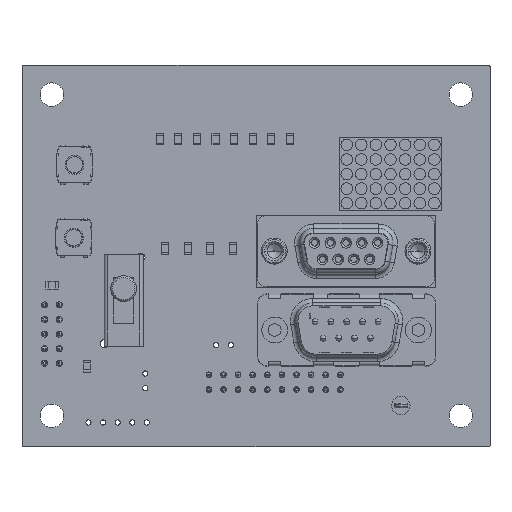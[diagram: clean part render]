
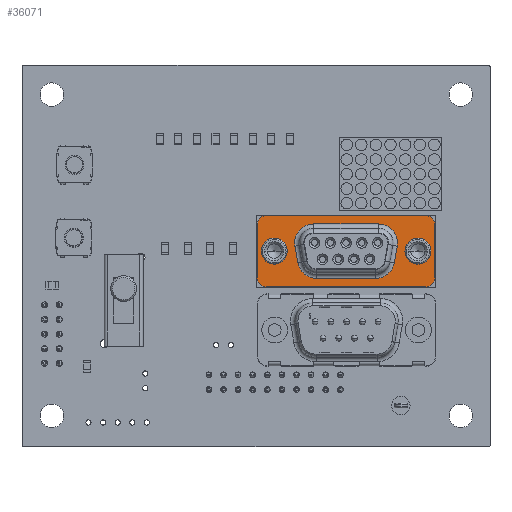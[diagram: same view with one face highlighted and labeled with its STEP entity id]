
A CAD part, top view. The second image highlights one B-rep face of the part: STEP entity #36071.
In plain terms, the highlighted planar face has unit normal (0, 0, 1) as drawn and (0, -1, 0) by its records, which use the part's own axes.
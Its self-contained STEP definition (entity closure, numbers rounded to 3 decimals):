
#36071 = ADVANCED_FACE('',(#36072,#36142,#36212,#36232),#36252,.T.);
#36072 = FACE_BOUND('',#36073,.F.);
#36073 = EDGE_LOOP('',(#36074,#36084,#36093,#36101,#36110,#36118,#36127,
    #36135));
#36074 = ORIENTED_EDGE('',*,*,#36075,.T.);
#36075 = EDGE_CURVE('',#36076,#36078,#36080,.T.);
#36076 = VERTEX_POINT('',#36077);
#36077 = CARTESIAN_POINT('',(-15.45,0.,-4.61));
#36078 = VERTEX_POINT('',#36079);
#36079 = CARTESIAN_POINT('',(-15.45,0.,4.61));
#36080 = LINE('',#36081,#36082);
#36081 = CARTESIAN_POINT('',(-15.45,0.,-4.61));
#36082 = VECTOR('',#36083,1.);
#36083 = DIRECTION('',(0.,0.,1.));
#36084 = ORIENTED_EDGE('',*,*,#36085,.F.);
#36085 = EDGE_CURVE('',#36086,#36078,#36088,.T.);
#36086 = VERTEX_POINT('',#36087);
#36087 = CARTESIAN_POINT('',(-13.85,0.,6.21));
#36088 = CIRCLE('',#36089,1.6);
#36089 = AXIS2_PLACEMENT_3D('',#36090,#36091,#36092);
#36090 = CARTESIAN_POINT('',(-13.85,0.,4.61));
#36091 = DIRECTION('',(0.,-1.,0.));
#36092 = DIRECTION('',(0.,0.,1.));
#36093 = ORIENTED_EDGE('',*,*,#36094,.T.);
#36094 = EDGE_CURVE('',#36086,#36095,#36097,.T.);
#36095 = VERTEX_POINT('',#36096);
#36096 = CARTESIAN_POINT('',(13.85,0.,6.21));
#36097 = LINE('',#36098,#36099);
#36098 = CARTESIAN_POINT('',(-13.85,0.,6.21));
#36099 = VECTOR('',#36100,1.);
#36100 = DIRECTION('',(1.,0.,0.));
#36101 = ORIENTED_EDGE('',*,*,#36102,.F.);
#36102 = EDGE_CURVE('',#36103,#36095,#36105,.T.);
#36103 = VERTEX_POINT('',#36104);
#36104 = CARTESIAN_POINT('',(15.45,0.,4.61));
#36105 = CIRCLE('',#36106,1.6);
#36106 = AXIS2_PLACEMENT_3D('',#36107,#36108,#36109);
#36107 = CARTESIAN_POINT('',(13.85,0.,4.61));
#36108 = DIRECTION('',(0.,-1.,0.));
#36109 = DIRECTION('',(1.,0.,0.));
#36110 = ORIENTED_EDGE('',*,*,#36111,.T.);
#36111 = EDGE_CURVE('',#36103,#36112,#36114,.T.);
#36112 = VERTEX_POINT('',#36113);
#36113 = CARTESIAN_POINT('',(15.45,0.,-4.61));
#36114 = LINE('',#36115,#36116);
#36115 = CARTESIAN_POINT('',(15.45,0.,4.61));
#36116 = VECTOR('',#36117,1.);
#36117 = DIRECTION('',(0.,0.,-1.));
#36118 = ORIENTED_EDGE('',*,*,#36119,.F.);
#36119 = EDGE_CURVE('',#36120,#36112,#36122,.T.);
#36120 = VERTEX_POINT('',#36121);
#36121 = CARTESIAN_POINT('',(13.85,0.,-6.21));
#36122 = CIRCLE('',#36123,1.6);
#36123 = AXIS2_PLACEMENT_3D('',#36124,#36125,#36126);
#36124 = CARTESIAN_POINT('',(13.85,0.,-4.61));
#36125 = DIRECTION('',(0.,-1.,0.));
#36126 = DIRECTION('',(0.,0.,-1.));
#36127 = ORIENTED_EDGE('',*,*,#36128,.T.);
#36128 = EDGE_CURVE('',#36120,#36129,#36131,.T.);
#36129 = VERTEX_POINT('',#36130);
#36130 = CARTESIAN_POINT('',(-13.85,0.,-6.21));
#36131 = LINE('',#36132,#36133);
#36132 = CARTESIAN_POINT('',(13.85,0.,-6.21));
#36133 = VECTOR('',#36134,1.);
#36134 = DIRECTION('',(-1.,0.,0.));
#36135 = ORIENTED_EDGE('',*,*,#36136,.F.);
#36136 = EDGE_CURVE('',#36076,#36129,#36137,.T.);
#36137 = CIRCLE('',#36138,1.6);
#36138 = AXIS2_PLACEMENT_3D('',#36139,#36140,#36141);
#36139 = CARTESIAN_POINT('',(-13.85,0.,-4.61));
#36140 = DIRECTION('',(0.,-1.,0.));
#36141 = DIRECTION('',(-1.,0.,0.));
#36142 = FACE_BOUND('',#36143,.F.);
#36143 = EDGE_LOOP('',(#36144,#36155,#36163,#36172,#36180,#36189,#36197,
    #36206));
#36144 = ORIENTED_EDGE('',*,*,#36145,.F.);
#36145 = EDGE_CURVE('',#36146,#36148,#36150,.T.);
#36146 = VERTEX_POINT('',#36147);
#36147 = CARTESIAN_POINT('',(8.9,0.,-0.872));
#36148 = VERTEX_POINT('',#36149);
#36149 = CARTESIAN_POINT('',(5.65,0.,-4.745));
#36150 = CIRCLE('',#36151,3.3);
#36151 = AXIS2_PLACEMENT_3D('',#36152,#36153,#36154);
#36152 = CARTESIAN_POINT('',(5.65,0.,-1.445));
#36153 = DIRECTION('',(0.,1.,0.));
#36154 = DIRECTION('',(0.985,0.,0.174));
#36155 = ORIENTED_EDGE('',*,*,#36156,.F.);
#36156 = EDGE_CURVE('',#36157,#36146,#36159,.T.);
#36157 = VERTEX_POINT('',#36158);
#36158 = CARTESIAN_POINT('',(8.39,0.,2.018));
#36159 = LINE('',#36160,#36161);
#36160 = CARTESIAN_POINT('',(8.39,0.,2.018));
#36161 = VECTOR('',#36162,1.);
#36162 = DIRECTION('',(0.174,0.,-0.985));
#36163 = ORIENTED_EDGE('',*,*,#36164,.F.);
#36164 = EDGE_CURVE('',#36165,#36157,#36167,.T.);
#36165 = VERTEX_POINT('',#36166);
#36166 = CARTESIAN_POINT('',(5.14,0.,4.745));
#36167 = CIRCLE('',#36168,3.3);
#36168 = AXIS2_PLACEMENT_3D('',#36169,#36170,#36171);
#36169 = CARTESIAN_POINT('',(5.14,0.,1.445));
#36170 = DIRECTION('',(0.,1.,0.));
#36171 = DIRECTION('',(0.,0.,1.));
#36172 = ORIENTED_EDGE('',*,*,#36173,.F.);
#36173 = EDGE_CURVE('',#36174,#36165,#36176,.T.);
#36174 = VERTEX_POINT('',#36175);
#36175 = CARTESIAN_POINT('',(-5.14,0.,4.745));
#36176 = LINE('',#36177,#36178);
#36177 = CARTESIAN_POINT('',(-5.14,0.,4.745));
#36178 = VECTOR('',#36179,1.);
#36179 = DIRECTION('',(1.,0.,0.));
#36180 = ORIENTED_EDGE('',*,*,#36181,.F.);
#36181 = EDGE_CURVE('',#36182,#36174,#36184,.T.);
#36182 = VERTEX_POINT('',#36183);
#36183 = CARTESIAN_POINT('',(-8.39,0.,2.018));
#36184 = CIRCLE('',#36185,3.3);
#36185 = AXIS2_PLACEMENT_3D('',#36186,#36187,#36188);
#36186 = CARTESIAN_POINT('',(-5.14,0.,1.445));
#36187 = DIRECTION('',(0.,1.,0.));
#36188 = DIRECTION('',(-0.985,0.,0.174));
#36189 = ORIENTED_EDGE('',*,*,#36190,.F.);
#36190 = EDGE_CURVE('',#36191,#36182,#36193,.T.);
#36191 = VERTEX_POINT('',#36192);
#36192 = CARTESIAN_POINT('',(-8.9,0.,-0.872));
#36193 = LINE('',#36194,#36195);
#36194 = CARTESIAN_POINT('',(-8.9,0.,-0.872));
#36195 = VECTOR('',#36196,1.);
#36196 = DIRECTION('',(0.174,0.,0.985));
#36197 = ORIENTED_EDGE('',*,*,#36198,.F.);
#36198 = EDGE_CURVE('',#36199,#36191,#36201,.T.);
#36199 = VERTEX_POINT('',#36200);
#36200 = CARTESIAN_POINT('',(-5.65,0.,-4.745));
#36201 = CIRCLE('',#36202,3.3);
#36202 = AXIS2_PLACEMENT_3D('',#36203,#36204,#36205);
#36203 = CARTESIAN_POINT('',(-5.65,0.,-1.445));
#36204 = DIRECTION('',(0.,1.,0.));
#36205 = DIRECTION('',(0.,0.,-1.));
#36206 = ORIENTED_EDGE('',*,*,#36207,.F.);
#36207 = EDGE_CURVE('',#36148,#36199,#36208,.T.);
#36208 = LINE('',#36209,#36210);
#36209 = CARTESIAN_POINT('',(5.65,0.,-4.745));
#36210 = VECTOR('',#36211,1.);
#36211 = DIRECTION('',(-1.,0.,0.));
#36212 = FACE_BOUND('',#36213,.F.);
#36213 = EDGE_LOOP('',(#36214,#36225));
#36214 = ORIENTED_EDGE('',*,*,#36215,.T.);
#36215 = EDGE_CURVE('',#36216,#36218,#36220,.T.);
#36216 = VERTEX_POINT('',#36217);
#36217 = CARTESIAN_POINT('',(-14.745,0.,0.));
#36218 = VERTEX_POINT('',#36219);
#36219 = CARTESIAN_POINT('',(-10.245,0.,0.));
#36220 = CIRCLE('',#36221,2.25);
#36221 = AXIS2_PLACEMENT_3D('',#36222,#36223,#36224);
#36222 = CARTESIAN_POINT('',(-12.495,0.,0.));
#36223 = DIRECTION('',(0.,-1.,0.));
#36224 = DIRECTION('',(-1.,0.,0.));
#36225 = ORIENTED_EDGE('',*,*,#36226,.T.);
#36226 = EDGE_CURVE('',#36218,#36216,#36227,.T.);
#36227 = CIRCLE('',#36228,2.25);
#36228 = AXIS2_PLACEMENT_3D('',#36229,#36230,#36231);
#36229 = CARTESIAN_POINT('',(-12.495,0.,0.));
#36230 = DIRECTION('',(0.,-1.,0.));
#36231 = DIRECTION('',(1.,0.,0.));
#36232 = FACE_BOUND('',#36233,.F.);
#36233 = EDGE_LOOP('',(#36234,#36245));
#36234 = ORIENTED_EDGE('',*,*,#36235,.T.);
#36235 = EDGE_CURVE('',#36236,#36238,#36240,.T.);
#36236 = VERTEX_POINT('',#36237);
#36237 = CARTESIAN_POINT('',(10.245,0.,0.));
#36238 = VERTEX_POINT('',#36239);
#36239 = CARTESIAN_POINT('',(14.745,0.,0.));
#36240 = CIRCLE('',#36241,2.25);
#36241 = AXIS2_PLACEMENT_3D('',#36242,#36243,#36244);
#36242 = CARTESIAN_POINT('',(12.495,0.,0.));
#36243 = DIRECTION('',(0.,-1.,0.));
#36244 = DIRECTION('',(-1.,0.,0.));
#36245 = ORIENTED_EDGE('',*,*,#36246,.T.);
#36246 = EDGE_CURVE('',#36238,#36236,#36247,.T.);
#36247 = CIRCLE('',#36248,2.25);
#36248 = AXIS2_PLACEMENT_3D('',#36249,#36250,#36251);
#36249 = CARTESIAN_POINT('',(12.495,0.,0.));
#36250 = DIRECTION('',(0.,-1.,0.));
#36251 = DIRECTION('',(1.,0.,0.));
#36252 = PLANE('',#36253);
#36253 = AXIS2_PLACEMENT_3D('',#36254,#36255,#36256);
#36254 = CARTESIAN_POINT('',(5.65,0.,-13.945));
#36255 = DIRECTION('',(0.,-1.,0.));
#36256 = DIRECTION('',(0.,0.,1.));
